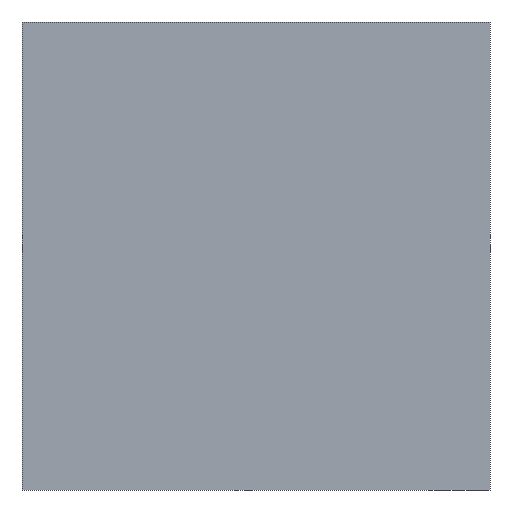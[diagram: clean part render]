
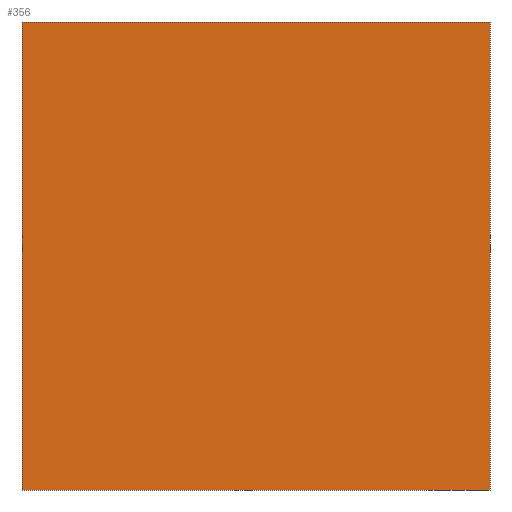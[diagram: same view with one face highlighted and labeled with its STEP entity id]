
A CAD part, front view. The second image highlights one B-rep face of the part: STEP entity #356.
In plain terms, the highlighted planar face has unit normal (0, -1, 0).
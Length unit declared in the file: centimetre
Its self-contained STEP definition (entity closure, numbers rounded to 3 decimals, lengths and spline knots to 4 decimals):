
#13 = CARTESIAN_POINT ( 'NONE',  ( 0., 0., 1000. ) ) ;
#37 = CARTESIAN_POINT ( 'NONE',  ( 0., 0., 1000. ) ) ;
#49 = CARTESIAN_POINT ( 'NONE',  ( 0., 0., 1000. ) ) ;
#58 = VERTEX_POINT ( 'NONE', #67 ) ;
#61 = ORIENTED_EDGE ( 'NONE', *, *, #273, .F. ) ;
#67 = CARTESIAN_POINT ( 'NONE',  ( 1000., 0., 1000. ) ) ;
#72 = CARTESIAN_POINT ( 'NONE',  ( 0., 0., 0. ) ) ;
#81 = DIRECTION ( 'NONE',  ( 1., 0., 0. ) ) ;
#98 = VERTEX_POINT ( 'NONE', #72 ) ;
#111 = DIRECTION ( 'NONE',  ( 0., 1., 0. ) ) ;
#117 = DIRECTION ( 'NONE',  ( 0., 0., -1. ) ) ;
#120 = DIRECTION ( 'NONE',  ( 0., 0., -1. ) ) ;
#128 = LINE ( 'NONE', #436, #394 ) ;
#160 = VERTEX_POINT ( 'NONE', #37 ) ;
#214 = LINE ( 'NONE', #220, #375 ) ;
#219 = VECTOR ( 'NONE', #81, 100. ) ;
#220 = CARTESIAN_POINT ( 'NONE',  ( 1000., 0., 1000. ) ) ;
#245 = EDGE_CURVE ( 'NONE', #58, #374, #214, .T. ) ;
#253 = ORIENTED_EDGE ( 'NONE', *, *, #245, .F. ) ;
#273 = EDGE_CURVE ( 'NONE', #160, #58, #386, .T. ) ;
#281 = EDGE_CURVE ( 'NONE', #160, #98, #359, .T. ) ;
#285 = CARTESIAN_POINT ( 'NONE',  ( 0., 0., 1000. ) ) ;
#288 = DIRECTION ( 'NONE',  ( 0., 0., 1. ) ) ;
#291 = VECTOR ( 'NONE', #120, 100. ) ;
#327 = PLANE ( 'NONE',  #355 ) ;
#334 = DIRECTION ( 'NONE',  ( 1., 0., 0. ) ) ;
#355 = AXIS2_PLACEMENT_3D ( 'NONE', #13, #111, #288 ) ;
#356 = ADVANCED_FACE ( 'NONE', ( #358 ), #327, .F. ) ;
#358 = FACE_OUTER_BOUND ( 'NONE', #406, .T. ) ;
#359 = LINE ( 'NONE', #49, #291 ) ;
#374 = VERTEX_POINT ( 'NONE', #431 ) ;
#375 = VECTOR ( 'NONE', #117, 100. ) ;
#379 = EDGE_CURVE ( 'NONE', #98, #374, #128, .T. ) ;
#386 = LINE ( 'NONE', #285, #219 ) ;
#391 = ORIENTED_EDGE ( 'NONE', *, *, #379, .T. ) ;
#394 = VECTOR ( 'NONE', #334, 100. ) ;
#398 = ORIENTED_EDGE ( 'NONE', *, *, #281, .T. ) ;
#406 = EDGE_LOOP ( 'NONE', ( #391, #253, #61, #398 ) ) ;
#431 = CARTESIAN_POINT ( 'NONE',  ( 1000., 0., 0. ) ) ;
#436 = CARTESIAN_POINT ( 'NONE',  ( 0., 0., 0. ) ) ;
